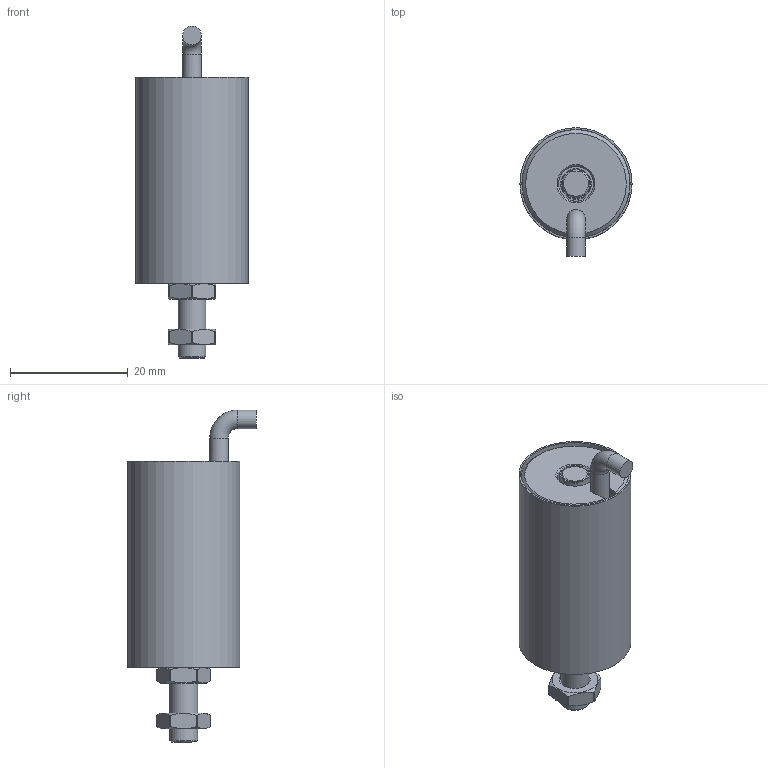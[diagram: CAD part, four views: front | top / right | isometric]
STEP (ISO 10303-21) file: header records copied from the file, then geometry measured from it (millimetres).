
FILE_DESCRIPTION(/* description */ ('ILPS-19Z-XXX-A-00-ZZ shrinkwrapped'),/* implementation_level */ '2;1');
FILE_NAME(/* name */ 'ILPS-19Z-12.7-A-00-ZZ shrinkwrapped.stp',/* time_stamp */ '2026-08-13T16:02:17-04:00',/* author */ ('Cameron'),/* organization */ ('hgsi'),/* preprocessor_version */ 'ST-DEVELOPER v20.1',/* originating_system */ 'Autodesk Inventor 2027',/* authorisation */ '');
FILE_SCHEMA (('AUTOMOTIVE_DESIGN { 1 0 10303 214 3 1 1 }'));
Length unit declared in the file: inch
Products named in the file (4): ILPS-19Z-12.7-A-00-ZZ shrinkwrapped; ILPS-19Z-12.7-A-00-ZZ-A shrinkwrapped body; ILPS-19Z-12.7 Rod; 8200-0360
Assembly tree (4 placements, depth 2):
  ILPS-19Z-12.7-A-00-ZZ shrinkwrapped
    ILPS-19Z-12.7-A-00-ZZ-A shrinkwrapped body
    ILPS-19Z-12.7 Rod
    8200-0360  x2
Bounding box: 19.05 x 21.89 x 56.45 mm (x, y, z)
Volume: 2917.1 mm3; surface area: 9013.2 mm2
Topology: 6 solids, 6 shells, 95 faces, 226 edges, 149 vertices
Faces by surface type: cylinder 41, plane 33, cone 16, bspline 4, torus 1
Full cylindrical faces by diameter (mm): 3.175 x2, 3.961 x2, 4.75 x1, 4.775 x1, 5 x4, 5.08 x1, 5.944 x2, 5.994 x1, 7.061 x1, 7.137 x2, 18.364 x1, 18.415 x1, 19.05 x1
Entity records: 2811 total; most frequent: CARTESIAN_POINT 1138, DIRECTION 304, ORIENTED_EDGE 302, EDGE_CURVE 151, AXIS2_PLACEMENT_3D 127, VERTEX_POINT 99, EDGE_LOOP 82, FACE_OUTER_BOUND 68
